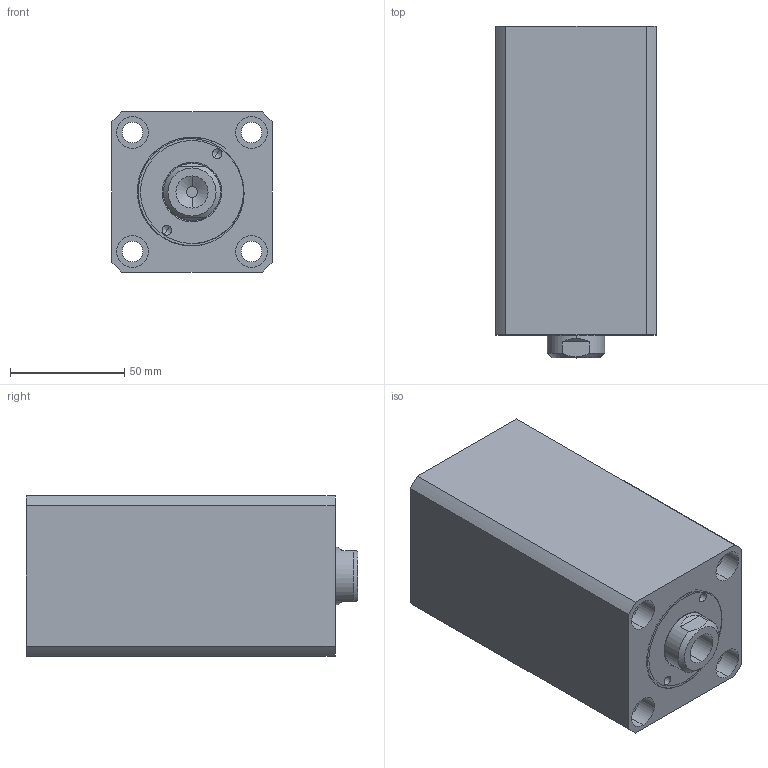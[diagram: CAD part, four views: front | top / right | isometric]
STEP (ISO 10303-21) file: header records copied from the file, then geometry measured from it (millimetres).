
FILE_DESCRIPTION (( 'STEP AP214' ), '1' );
FILE_NAME ('chtb-sdmb40x80n_asm.STEP', '2018-06-07T02:41:57', ( 'Windows' ), ( 'Microsoft' ), 'SwSTEP 2.0', 'SolidWorks 2015', '' );
FILE_SCHEMA (( 'AUTOMOTIVE_DESIGN' ));
Length unit declared in the file: millimetre
Products named in the file (4): CHTB-SD40QG; CHTB-SDMB40X80NBT; CHTB-SD40X80NHSG; chtb-sdmb40x80n_asm
Assembly tree (3 placements, depth 2):
  chtb-sdmb40x80n_asm
    CHTB-SD40X80NHSG
    CHTB-SDMB40X80NBT
    CHTB-SD40QG
Bounding box: 70 x 145 x 70 mm (x, y, z)
Volume: 545732.6 mm3; surface area: 108101 mm2
Topology: 3 solids, 3 shells, 155 faces, 407 edges, 270 vertices
Faces by surface type: cylinder 84, plane 34, torus 14, bspline 14, cone 9
Entity records: 10007 total; most frequent: CARTESIAN_POINT 6085, ORIENTED_EDGE 802, DIRECTION 758, EDGE_CURVE 401, AXIS2_PLACEMENT_3D 322, VERTEX_POINT 270, EDGE_LOOP 191, CIRCLE 175
